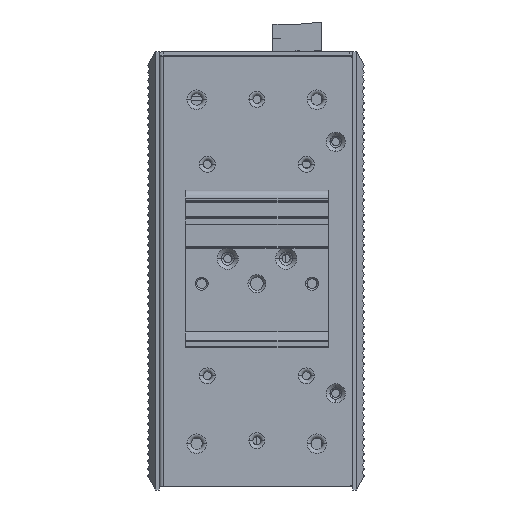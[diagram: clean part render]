
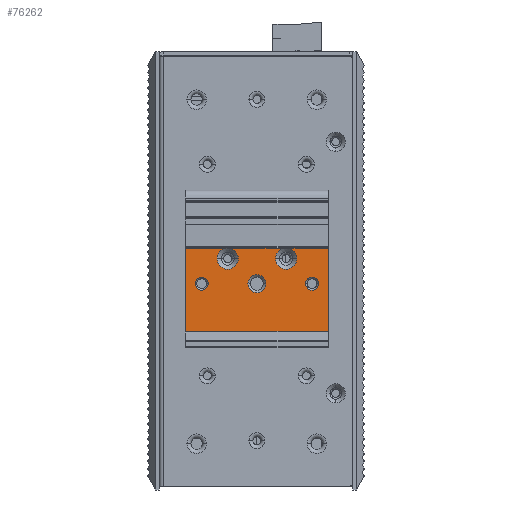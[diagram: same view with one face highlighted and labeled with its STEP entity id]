
A CAD part, left-side view. The second image highlights one B-rep face of the part: STEP entity #76262.
In plain terms, the highlighted planar face has unit normal (-1, 0, 0).
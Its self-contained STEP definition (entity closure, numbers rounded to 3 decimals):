
#74962=DIRECTION('',(0.,0.,-1.));
#74963=VECTOR('',#74962,25.635);
#74964=CARTESIAN_POINT('',(-51.4,7.51,3.81));
#74965=LINE('',#74964,#74963);
#75173=CARTESIAN_POINT('',(-51.4,38.51,0.61));
#75174=DIRECTION('',(1.,0.,0.));
#75175=DIRECTION('',(0.,1.,0.));
#75176=AXIS2_PLACEMENT_3D('',#75173,#75174,#75175);
#75178=CARTESIAN_POINT('',(-51.4,38.51,0.61));
#75179=DIRECTION('',(1.,0.,0.));
#75180=DIRECTION('',(0.,-1.,0.));
#75181=AXIS2_PLACEMENT_3D('',#75178,#75179,#75180);
#75183=CARTESIAN_POINT('',(-51.4,38.51,0.61));
#75184=DIRECTION('',(1.,0.,0.));
#75185=DIRECTION('',(0.,-0.175,0.985));
#75186=AXIS2_PLACEMENT_3D('',#75183,#75184,#75185);
#75188=CARTESIAN_POINT('',(-51.4,20.51,0.61));
#75189=DIRECTION('',(1.,0.,0.));
#75190=DIRECTION('',(0.,1.,0.));
#75191=AXIS2_PLACEMENT_3D('',#75188,#75189,#75190);
#75193=CARTESIAN_POINT('',(-51.4,20.51,0.61));
#75194=DIRECTION('',(1.,0.,0.));
#75195=DIRECTION('',(0.,-1.,0.));
#75196=AXIS2_PLACEMENT_3D('',#75193,#75194,#75195);
#75198=CARTESIAN_POINT('',(-51.4,20.51,0.61));
#75199=DIRECTION('',(1.,0.,0.));
#75200=DIRECTION('',(0.,-0.175,0.985));
#75201=AXIS2_PLACEMENT_3D('',#75198,#75199,#75200);
#75203=DIRECTION('',(0.,0.,-1.));
#75204=VECTOR('',#75203,25.635);
#75205=CARTESIAN_POINT('',(-51.4,51.51,3.81));
#75206=LINE('',#75205,#75204);
#75207=CARTESIAN_POINT('',(-51.4,29.51,-7.09));
#75208=DIRECTION('',(1.,0.,0.));
#75209=DIRECTION('',(0.,1.,0.));
#75210=AXIS2_PLACEMENT_3D('',#75207,#75208,#75209);
#75212=CARTESIAN_POINT('',(-51.4,29.51,-7.09));
#75213=DIRECTION('',(1.,0.,0.));
#75214=DIRECTION('',(0.,-1.,0.));
#75215=AXIS2_PLACEMENT_3D('',#75212,#75213,#75214);
#75217=CARTESIAN_POINT('',(-51.4,12.51,-7.09));
#75218=DIRECTION('',(1.,0.,0.));
#75219=DIRECTION('',(0.,1.,0.));
#75220=AXIS2_PLACEMENT_3D('',#75217,#75218,#75219);
#75222=CARTESIAN_POINT('',(-51.4,12.51,-7.09));
#75223=DIRECTION('',(1.,0.,0.));
#75224=DIRECTION('',(0.,-1.,0.));
#75225=AXIS2_PLACEMENT_3D('',#75222,#75223,#75224);
#75227=CARTESIAN_POINT('',(-51.4,46.51,-7.09));
#75228=DIRECTION('',(1.,0.,0.));
#75229=DIRECTION('',(0.,1.,0.));
#75230=AXIS2_PLACEMENT_3D('',#75227,#75228,#75229);
#75232=CARTESIAN_POINT('',(-51.4,46.51,-7.09));
#75233=DIRECTION('',(1.,0.,0.));
#75234=DIRECTION('',(0.,-1.,0.));
#75235=AXIS2_PLACEMENT_3D('',#75232,#75233,#75234);
#75250=DIRECTION('',(0.,-1.,0.));
#75251=VECTOR('',#75250,16.864);
#75252=CARTESIAN_POINT('',(-51.4,37.942,3.81));
#75253=LINE('',#75252,#75251);
#75254=CARTESIAN_POINT('',(-51.4,39.078,3.81));
#75261=DIRECTION('',(0.,-1.,0.));
#75262=VECTOR('',#75261,12.432);
#75263=CARTESIAN_POINT('',(-51.4,51.51,3.81));
#75264=LINE('',#75263,#75262);
#75269=DIRECTION('',(0.,-1.,0.));
#75270=VECTOR('',#75269,12.432);
#75271=CARTESIAN_POINT('',(-51.4,19.942,3.81));
#75272=LINE('',#75271,#75270);
#75278=CARTESIAN_POINT('',(-51.4,19.942,3.81));
#75487=DIRECTION('',(0.,1.,0.));
#75488=VECTOR('',#75487,44.);
#75489=CARTESIAN_POINT('',(-51.4,7.51,-21.825));
#75490=LINE('',#75489,#75488);
#75850=CARTESIAN_POINT('',(-51.4,7.51,3.81));
#75851=CARTESIAN_POINT('',(-51.4,7.51,-21.825));
#75852=VERTEX_POINT('',#75850);
#75853=VERTEX_POINT('',#75851);
#75854=CARTESIAN_POINT('',(-51.4,37.942,3.81));
#75855=CARTESIAN_POINT('',(-51.4,21.078,3.81));
#75856=VERTEX_POINT('',#75854);
#75857=VERTEX_POINT('',#75855);
#75862=VERTEX_POINT('',#75254);
#75863=VERTEX_POINT('',#75278);
#75868=CARTESIAN_POINT('',(-51.4,51.51,-21.825));
#75869=VERTEX_POINT('',#75868);
#75870=CARTESIAN_POINT('',(-51.4,41.76,0.61));
#75871=VERTEX_POINT('',#75870);
#75872=CARTESIAN_POINT('',(-51.4,35.26,0.61));
#75873=VERTEX_POINT('',#75872);
#75874=CARTESIAN_POINT('',(-51.4,51.51,3.81));
#75875=VERTEX_POINT('',#75874);
#75876=CARTESIAN_POINT('',(-51.4,23.76,0.61));
#75877=VERTEX_POINT('',#75876);
#75886=CARTESIAN_POINT('',(-51.4,17.26,0.61));
#75887=VERTEX_POINT('',#75886);
#75890=CARTESIAN_POINT('',(-51.4,32.26,-7.09));
#75891=CARTESIAN_POINT('',(-51.4,26.76,-7.09));
#75892=VERTEX_POINT('',#75890);
#75893=VERTEX_POINT('',#75891);
#75906=CARTESIAN_POINT('',(-51.4,14.51,-7.09));
#75907=CARTESIAN_POINT('',(-51.4,10.51,-7.09));
#75908=VERTEX_POINT('',#75906);
#75909=VERTEX_POINT('',#75907);
#75928=CARTESIAN_POINT('',(-51.4,48.51,-7.09));
#75929=CARTESIAN_POINT('',(-51.4,44.51,-7.09));
#75930=VERTEX_POINT('',#75928);
#75931=VERTEX_POINT('',#75929);
#76214=CARTESIAN_POINT('',(-51.4,55.91,4.01));
#76215=DIRECTION('',(1.,0.,0.));
#76216=DIRECTION('',(0.,0.,-1.));
#76217=AXIS2_PLACEMENT_3D('',#76214,#76215,#76216);
#76218=PLANE('',#76217);
#76220=ORIENTED_EDGE('',*,*,#76219,.F.);
#76222=ORIENTED_EDGE('',*,*,#76221,.F.);
#76224=ORIENTED_EDGE('',*,*,#76223,.F.);
#76226=ORIENTED_EDGE('',*,*,#76225,.T.);
#76228=ORIENTED_EDGE('',*,*,#76227,.F.);
#76230=ORIENTED_EDGE('',*,*,#76229,.F.);
#76232=ORIENTED_EDGE('',*,*,#76231,.F.);
#76234=ORIENTED_EDGE('',*,*,#76233,.T.);
#76235=ORIENTED_EDGE('',*,*,#76117,.T.);
#76237=ORIENTED_EDGE('',*,*,#76236,.T.);
#76239=ORIENTED_EDGE('',*,*,#76238,.F.);
#76241=ORIENTED_EDGE('',*,*,#76240,.T.);
#76242=EDGE_LOOP('',(#76220,#76222,#76224,#76226,#76228,#76230,#76232,#76234,
#76235,#76237,#76239,#76241));
#76243=FACE_OUTER_BOUND('',#76242,.F.);
#76245=ORIENTED_EDGE('',*,*,#76244,.F.);
#76247=ORIENTED_EDGE('',*,*,#76246,.F.);
#76248=EDGE_LOOP('',(#76245,#76247));
#76249=FACE_BOUND('',#76248,.F.);
#76251=ORIENTED_EDGE('',*,*,#76250,.F.);
#76253=ORIENTED_EDGE('',*,*,#76252,.F.);
#76254=EDGE_LOOP('',(#76251,#76253));
#76255=FACE_BOUND('',#76254,.F.);
#76257=ORIENTED_EDGE('',*,*,#76256,.F.);
#76259=ORIENTED_EDGE('',*,*,#76258,.F.);
#76260=EDGE_LOOP('',(#76257,#76259));
#76261=FACE_BOUND('',#76260,.F.);
#76262=ADVANCED_FACE('',(#76243,#76249,#76255,#76261),#76218,.F.);
#75177=CIRCLE('',#75176,3.25);
#75182=CIRCLE('',#75181,3.25);
#75187=CIRCLE('',#75186,3.25);
#75192=CIRCLE('',#75191,3.25);
#75197=CIRCLE('',#75196,3.25);
#75202=CIRCLE('',#75201,3.25);
#75211=CIRCLE('',#75210,2.75);
#75216=CIRCLE('',#75215,2.75);
#75221=CIRCLE('',#75220,2.);
#75226=CIRCLE('',#75225,2.);
#75231=CIRCLE('',#75230,2.);
#75236=CIRCLE('',#75235,2.);
#76117=EDGE_CURVE('',#75852,#75853,#74965,.T.);
#76219=EDGE_CURVE('',#75871,#75862,#75177,.T.);
#76221=EDGE_CURVE('',#75873,#75871,#75182,.T.);
#76223=EDGE_CURVE('',#75856,#75873,#75187,.T.);
#76225=EDGE_CURVE('',#75856,#75857,#75253,.T.);
#76227=EDGE_CURVE('',#75877,#75857,#75192,.T.);
#76229=EDGE_CURVE('',#75887,#75877,#75197,.T.);
#76231=EDGE_CURVE('',#75863,#75887,#75202,.T.);
#76233=EDGE_CURVE('',#75863,#75852,#75272,.T.);
#76236=EDGE_CURVE('',#75853,#75869,#75490,.T.);
#76238=EDGE_CURVE('',#75875,#75869,#75206,.T.);
#76240=EDGE_CURVE('',#75875,#75862,#75264,.T.);
#76244=EDGE_CURVE('',#75892,#75893,#75211,.T.);
#76246=EDGE_CURVE('',#75893,#75892,#75216,.T.);
#76250=EDGE_CURVE('',#75908,#75909,#75221,.T.);
#76252=EDGE_CURVE('',#75909,#75908,#75226,.T.);
#76256=EDGE_CURVE('',#75930,#75931,#75231,.T.);
#76258=EDGE_CURVE('',#75931,#75930,#75236,.T.);
